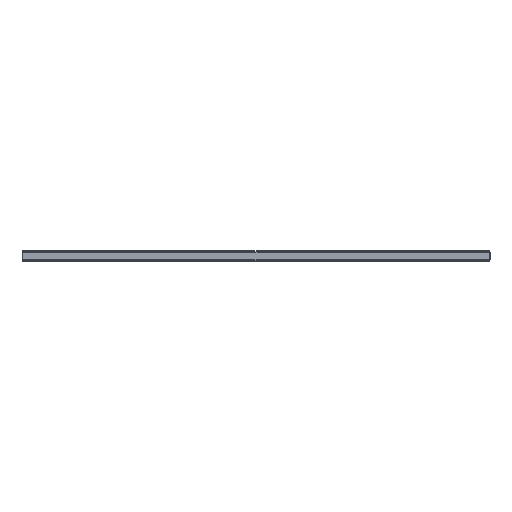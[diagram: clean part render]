
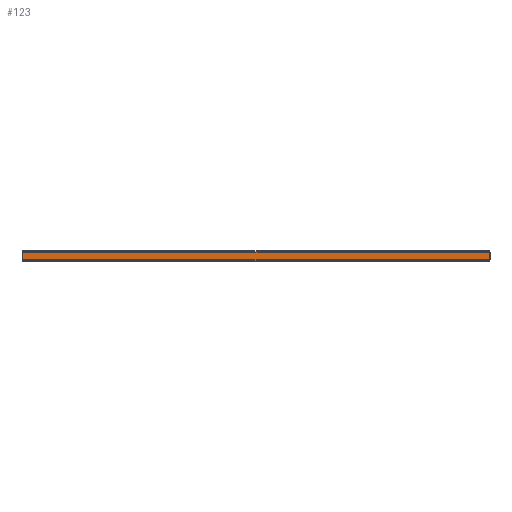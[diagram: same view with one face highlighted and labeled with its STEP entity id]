
A CAD part, front view. The second image highlights one B-rep face of the part: STEP entity #123.
In plain terms, the highlighted planar face has unit normal (0, -1, 0).
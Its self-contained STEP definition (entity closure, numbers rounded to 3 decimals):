
#123=ADVANCED_FACE('',(#1163),#1165,.F.);
#1163=FACE_BOUND('',#1164,.T.);
#1164=EDGE_LOOP('',(#2189,#2190,#2191,#2192));
#1165=PLANE('',#1166);
#1166=AXIS2_PLACEMENT_3D('',#1167,#1168,#1169);
#1167=CARTESIAN_POINT('',(0.,-766.5,0.));
#1168=DIRECTION('',(0.,1.,0.));
#1169=DIRECTION('',(0.,0.,1.));
#2189=ORIENTED_EDGE('',*,*,#2627,.F.);
#2190=ORIENTED_EDGE('',*,*,#2629,.F.);
#2191=ORIENTED_EDGE('',*,*,#2630,.F.);
#2192=ORIENTED_EDGE('',*,*,#2631,.F.);
#2627=EDGE_CURVE('',#3044,#3038,#3047,.T.);
#2629=EDGE_CURVE('',#3049,#3044,#3050,.T.);
#2630=EDGE_CURVE('',#3051,#3049,#3052,.T.);
#2631=EDGE_CURVE('',#3038,#3051,#3053,.T.);
#3038=VERTEX_POINT('',#4568);
#3044=VERTEX_POINT('',#4741);
#3047=LINE('',#4803,#4804);
#3049=VERTEX_POINT('',#4809);
#3050=LINE('',#4810,#4811);
#3051=VERTEX_POINT('',#4813);
#3052=LINE('',#4814,#4815);
#3053=LINE('',#4817,#4818);
#4568=CARTESIAN_POINT('',(536.823,-766.5,-4.));
#4741=CARTESIAN_POINT('',(-536.823,-766.5,-4.));
#4803=CARTESIAN_POINT('',(-536.823,-766.5,-4.));
#4804=VECTOR('',#4805,1.);
#4805=DIRECTION('',(1.,0.,0.));
#4809=CARTESIAN_POINT('',(-536.823,-766.5,-21.));
#4810=CARTESIAN_POINT('',(-536.823,-766.5,-21.));
#4811=VECTOR('',#4812,1.);
#4812=DIRECTION('',(0.,0.,1.));
#4813=CARTESIAN_POINT('',(536.823,-766.5,-21.));
#4814=CARTESIAN_POINT('',(536.823,-766.5,-21.));
#4815=VECTOR('',#4816,1.);
#4816=DIRECTION('',(-1.,0.,0.));
#4817=CARTESIAN_POINT('',(536.823,-766.5,-4.));
#4818=VECTOR('',#4819,1.);
#4819=DIRECTION('',(0.,0.,-1.));
